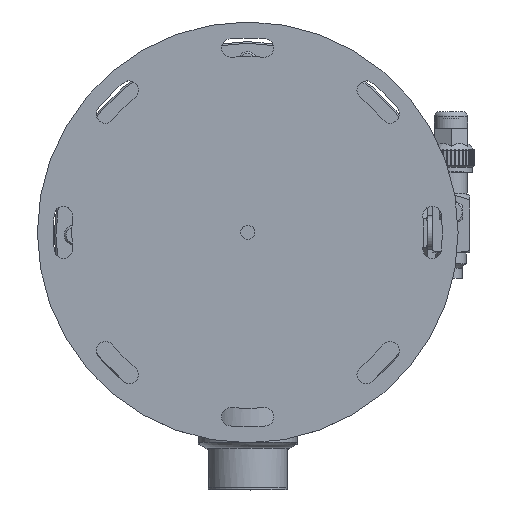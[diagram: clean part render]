
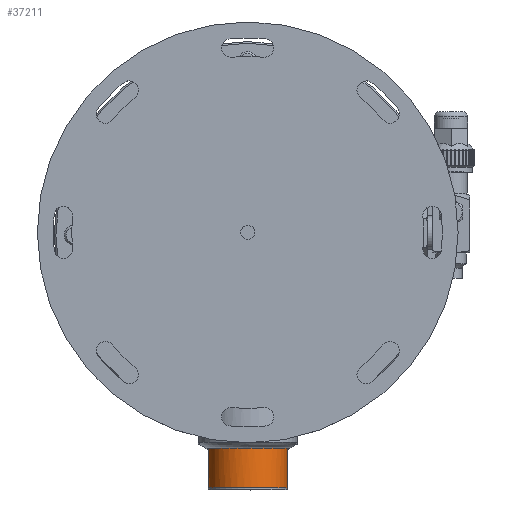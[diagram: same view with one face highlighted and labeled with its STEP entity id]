
A CAD part, top view. The second image highlights one B-rep face of the part: STEP entity #37211.
In plain terms, the highlighted cylindrical face has radius 23.5 mm (diameter 47 mm), a full revolution.
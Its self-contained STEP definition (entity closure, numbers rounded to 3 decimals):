
#2748=FACE_OUTER_BOUND('',#5044,.T.);
#5044=EDGE_LOOP('',(#27827,#27828,#27829,#27830,#27831,#27832,#27833));
#9073=CIRCLE('',#40513,23.5);
#9074=CIRCLE('',#40514,23.5);
#9075=CIRCLE('',#40516,23.5);
#9076=CIRCLE('',#40517,23.5);
#9077=CIRCLE('',#40518,23.5);
#10354=LINE('',#63106,#12883);
#12883=VECTOR('',#46198,23.5);
#16597=VERTEX_POINT('',#63100);
#16598=VERTEX_POINT('',#63101);
#16599=VERTEX_POINT('',#63105);
#16600=VERTEX_POINT('',#63107);
#16601=VERTEX_POINT('',#63109);
#20848=EDGE_CURVE('',#16597,#16598,#9073,.T.);
#20849=EDGE_CURVE('',#16598,#16597,#9074,.T.);
#20850=EDGE_CURVE('',#16598,#16599,#10354,.T.);
#20851=EDGE_CURVE('',#16599,#16600,#9075,.T.);
#20852=EDGE_CURVE('',#16600,#16601,#9076,.T.);
#20853=EDGE_CURVE('',#16601,#16599,#9077,.T.);
#27827=ORIENTED_EDGE('',*,*,#20848,.F.);
#27828=ORIENTED_EDGE('',*,*,#20849,.F.);
#27829=ORIENTED_EDGE('',*,*,#20850,.T.);
#27830=ORIENTED_EDGE('',*,*,#20851,.T.);
#27831=ORIENTED_EDGE('',*,*,#20852,.T.);
#27832=ORIENTED_EDGE('',*,*,#20853,.T.);
#27833=ORIENTED_EDGE('',*,*,#20850,.F.);
#35868=CYLINDRICAL_SURFACE('',#40515,23.5);
#37211=ADVANCED_FACE('',(#2748),#35868,.T.);
#40513=AXIS2_PLACEMENT_3D('',#63102,#46192,#46193);
#40514=AXIS2_PLACEMENT_3D('',#63103,#46194,#46195);
#40515=AXIS2_PLACEMENT_3D('',#63104,#46196,#46197);
#40516=AXIS2_PLACEMENT_3D('',#63108,#46199,#46200);
#40517=AXIS2_PLACEMENT_3D('',#63110,#46201,#46202);
#40518=AXIS2_PLACEMENT_3D('',#63111,#46203,#46204);
#46192=DIRECTION('center_axis',(0.,-1.,0.));
#46193=DIRECTION('ref_axis',(0.996,0.,0.088));
#46194=DIRECTION('center_axis',(0.,-1.,0.));
#46195=DIRECTION('ref_axis',(0.996,0.,0.088));
#46196=DIRECTION('center_axis',(0.,-1.,0.));
#46197=DIRECTION('ref_axis',(0.996,0.,0.088));
#46198=DIRECTION('',(0.,1.,0.));
#46199=DIRECTION('center_axis',(0.,-1.,0.));
#46200=DIRECTION('ref_axis',(0.996,0.,0.088));
#46201=DIRECTION('center_axis',(0.,-1.,0.));
#46202=DIRECTION('ref_axis',(0.996,0.,0.088));
#46203=DIRECTION('center_axis',(0.,-1.,0.));
#46204=DIRECTION('ref_axis',(0.996,0.,0.088));
#63100=CARTESIAN_POINT('',(23.409,-151.5,71.138));
#63101=CARTESIAN_POINT('',(-23.409,-151.5,67.014));
#63102=CARTESIAN_POINT('Origin',(0.,-151.5,
69.076));
#63103=CARTESIAN_POINT('Origin',(0.,-151.5,
69.076));
#63104=CARTESIAN_POINT('Origin',(0.,-139.75,
69.076));
#63105=CARTESIAN_POINT('',(-23.409,-128.,67.014));
#63106=CARTESIAN_POINT('',(-23.409,-139.75,67.014));
#63107=CARTESIAN_POINT('',(23.409,-128.,71.138));
#63108=CARTESIAN_POINT('Origin',(0.,-128.,
69.076));
#63109=CARTESIAN_POINT('',(0.,-128.,92.576));
#63110=CARTESIAN_POINT('Origin',(0.,-128.,
69.076));
#63111=CARTESIAN_POINT('Origin',(0.,-128.,
69.076));
